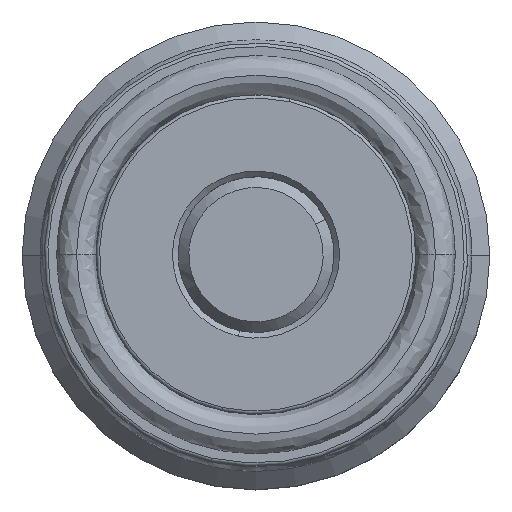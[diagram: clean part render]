
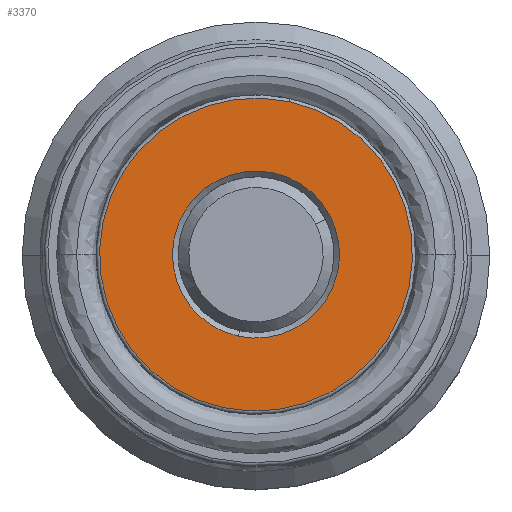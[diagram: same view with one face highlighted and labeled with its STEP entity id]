
A CAD part, top view. The second image highlights one B-rep face of the part: STEP entity #3370.
In plain terms, the highlighted planar face has unit normal (0, 0, 1).
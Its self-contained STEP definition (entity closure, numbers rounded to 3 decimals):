
#2045 = VERTEX_POINT ( 'NONE', #13768 ) ;
#2316 = DIRECTION ( 'NONE',  ( 0.212, 0.977, 0. ) ) ;
#2344 = DIRECTION ( 'NONE',  ( 0., 0., -1. ) ) ;
#2407 = CARTESIAN_POINT ( 'NONE',  ( 0., 0., -7.5 ) ) ;
#2628 = ORIENTED_EDGE ( 'NONE', *, *, #4686, .T. ) ;
#3287 = FACE_OUTER_BOUND ( 'NONE', #10746, .T. ) ;
#3309 = DIRECTION ( 'NONE',  ( 0.212, 0.977, 0. ) ) ;
#3321 = DIRECTION ( 'NONE',  ( 0., 0., 1. ) ) ;
#3370 = ADVANCED_FACE ( 'NONE', ( #9033, #3287 ), #8258, .T. ) ;
#3667 = ORIENTED_EDGE ( 'NONE', *, *, #4558, .T. ) ;
#3875 = CARTESIAN_POINT ( 'NONE',  ( 0., 0., -7.5 ) ) ;
#4558 = EDGE_CURVE ( 'NONE', #2045, #8482, #6582, .T. ) ;
#4629 = ORIENTED_EDGE ( 'NONE', *, *, #5940, .T. ) ;
#4686 = EDGE_CURVE ( 'NONE', #5598, #6030, #5239, .T. ) ;
#5001 = EDGE_CURVE ( 'NONE', #6030, #5598, #7604, .T. ) ;
#5239 = CIRCLE ( 'NONE', #11763, 7.5 ) ;
#5598 = VERTEX_POINT ( 'NONE', #13970 ) ;
#5940 = EDGE_CURVE ( 'NONE', #8482, #2045, #13946, .T. ) ;
#6030 = VERTEX_POINT ( 'NONE', #6128 ) ;
#6128 = CARTESIAN_POINT ( 'NONE',  ( 1.588, 7.33, -7.5 ) ) ;
#6582 = CIRCLE ( 'NONE', #11328, 14.05 ) ;
#7563 = DIRECTION ( 'NONE',  ( 0.212, 0.977, 0. ) ) ;
#7583 = DIRECTION ( 'NONE',  ( 0., 0., 1. ) ) ;
#7604 = CIRCLE ( 'NONE', #8610, 7.5 ) ;
#7606 = CARTESIAN_POINT ( 'NONE',  ( 0., 0., -7.5 ) ) ;
#7852 = DIRECTION ( 'NONE',  ( 0.212, 0.977, 0. ) ) ;
#7944 = DIRECTION ( 'NONE',  ( 0., 0., 1. ) ) ;
#7995 = CARTESIAN_POINT ( 'NONE',  ( 0., 0., -7.5 ) ) ;
#8258 = PLANE ( 'NONE',  #8320 ) ;
#8320 = AXIS2_PLACEMENT_3D ( 'NONE', #7995, #7944, #7852 ) ;
#8482 = VERTEX_POINT ( 'NONE', #12242 ) ;
#8610 = AXIS2_PLACEMENT_3D ( 'NONE', #2407, #2344, #2316 ) ;
#9033 = FACE_BOUND ( 'NONE', #12583, .T. ) ;
#10746 = EDGE_LOOP ( 'NONE', ( #3667, #4629 ) ) ;
#11328 = AXIS2_PLACEMENT_3D ( 'NONE', #3875, #3321, #3309 ) ;
#11763 = AXIS2_PLACEMENT_3D ( 'NONE', #12351, #12296, #12255 ) ;
#12242 = CARTESIAN_POINT ( 'NONE',  ( -2.974, -13.732, -7.5 ) ) ;
#12255 = DIRECTION ( 'NONE',  ( 0.212, 0.977, 0. ) ) ;
#12296 = DIRECTION ( 'NONE',  ( 0., 0., -1. ) ) ;
#12351 = CARTESIAN_POINT ( 'NONE',  ( 0., 0., -7.5 ) ) ;
#12583 = EDGE_LOOP ( 'NONE', ( #13629, #2628 ) ) ;
#13251 = AXIS2_PLACEMENT_3D ( 'NONE', #7606, #7583, #7563 ) ;
#13629 = ORIENTED_EDGE ( 'NONE', *, *, #5001, .T. ) ;
#13768 = CARTESIAN_POINT ( 'NONE',  ( 2.974, 13.732, -7.5 ) ) ;
#13946 = CIRCLE ( 'NONE', #13251, 14.05 ) ;
#13970 = CARTESIAN_POINT ( 'NONE',  ( -1.588, -7.33, -7.5 ) ) ;
